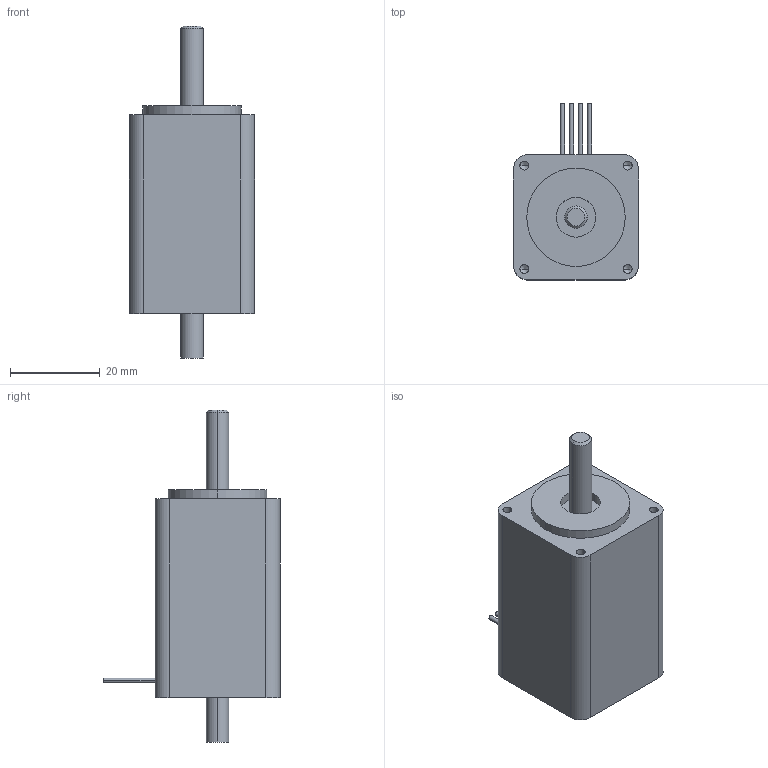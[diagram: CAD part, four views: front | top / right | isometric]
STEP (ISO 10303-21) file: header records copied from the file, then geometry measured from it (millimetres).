
FILE_DESCRIPTION((''),'2;1');
FILE_NAME('C:\Documents and Settings\rbadgerow\Desktop\webmodelmain\web step 3d\211-18 052605\211-18 d.stp','2005-05-27T09:46:28',('rbadgerow'),(''),'Autodesk Inventor 9','Autodesk Inventor 9','');
FILE_SCHEMA(('AUTOMOTIVE_DESIGN { 1 0 10303 214 1 1 1 1 }'));
Length unit declared in the file: inch
Products named in the file (1): 211-18 d
Bounding box: 27.94 x 39.37 x 74.17 mm (x, y, z)
Volume: 35514.5 mm3; surface area: 7197 mm2
Topology: 2 solids, 2 shells, 56 faces, 122 edges, 74 vertices
Faces by surface type: cylinder 22, plane 16, bspline 16, cone 2
Entity records: 1724 total; most frequent: CARTESIAN_POINT 517, DIRECTION 258, ORIENTED_EDGE 228, EDGE_CURVE 114, AXIS2_PLACEMENT_3D 103, VERTEX_POINT 74, EDGE_LOOP 68, CIRCLE 62
